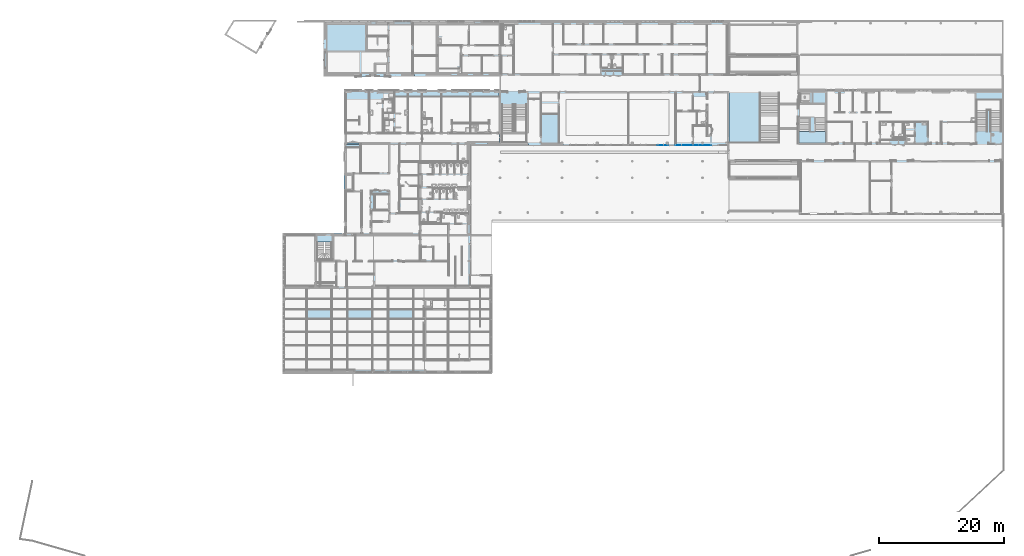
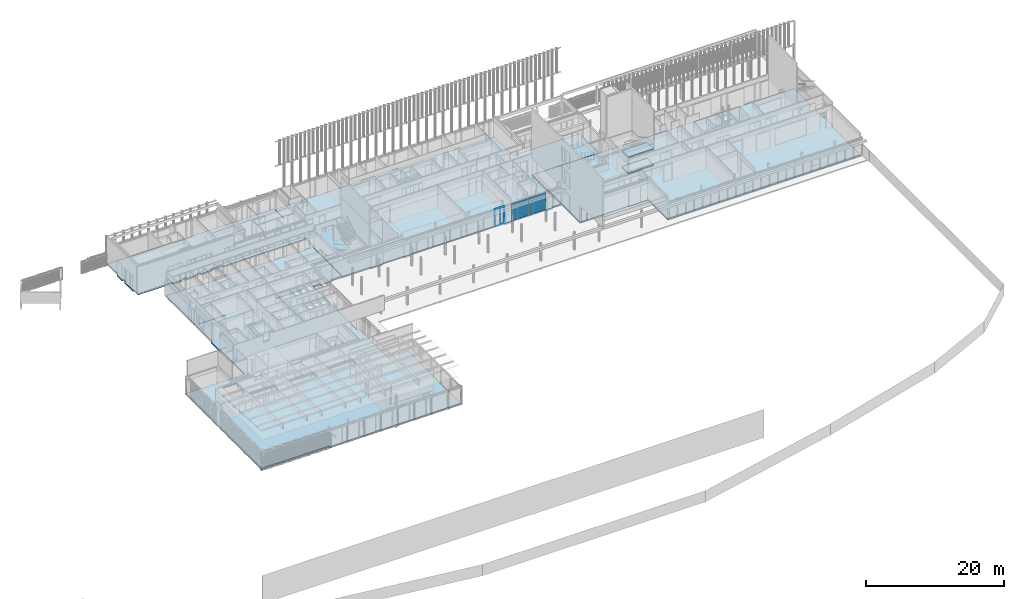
# One storey, part 181 of 240: 3 plates, 3 slabs, 3 elements without a shape of their own.
"""IFC2X3 building model written with IfcOpenShell, lengths in centimetres."""

from ifc_helpers import new_model, entity, si_unit, converted_unit, derived_unit, direction, frame, origin, place, context, subcontext, project, spatial, faceted_brep, source, transform, mapped, material, material_list, layer, layer_set, type_object, type_shapes, element, aggregate, save


model = new_model("IFC2X3")

# Units and contexts
model_context = context("Model", 3, precision=0.001, world=origin(), true_north=direction((6.12303176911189e-17, 1.0)))
body_context = subcontext(model_context, "Body", "Model", "MODEL_VIEW")
ifc_project = project(units=[si_unit("LENGTHUNIT", "METRE", prefix="CENTI"), si_unit("AREAUNIT", "SQUARE_METRE"), si_unit("VOLUMEUNIT", "CUBIC_METRE"), converted_unit("PLANEANGLEUNIT", "DEGREE", entity("IfcRatioMeasure", 0.0174532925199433), si_unit("PLANEANGLEUNIT", "RADIAN"), dimensions=[0, 0, 0, 0, 0, 0, 0]), si_unit("MASSUNIT", "GRAM", prefix="KILO"), derived_unit("MASSDENSITYUNIT", [(si_unit("MASSUNIT", "GRAM", prefix="KILO"), 1), (si_unit("LENGTHUNIT", "METRE"), -3)]), si_unit("TIMEUNIT", "SECOND"), si_unit("FREQUENCYUNIT", "HERTZ"), si_unit("THERMODYNAMICTEMPERATUREUNIT", "DEGREE_CELSIUS"), derived_unit("THERMALTRANSMITTANCEUNIT", [(si_unit("MASSUNIT", "GRAM", prefix="KILO"), 1), (si_unit("THERMODYNAMICTEMPERATUREUNIT", "KELVIN"), -1), (si_unit("TIMEUNIT", "SECOND"), -3)]), derived_unit("VOLUMETRICFLOWRATEUNIT", [(si_unit("LENGTHUNIT", "METRE"), 3), (si_unit("TIMEUNIT", "SECOND"), -1)]), si_unit("ELECTRICCURRENTUNIT", "AMPERE"), si_unit("ELECTRICVOLTAGEUNIT", "VOLT"), si_unit("POWERUNIT", "WATT"), si_unit("FORCEUNIT", "NEWTON", prefix="KILO"), si_unit("ILLUMINANCEUNIT", "LUX"), si_unit("LUMINOUSFLUXUNIT", "LUMEN"), si_unit("LUMINOUSINTENSITYUNIT", "CANDELA"), derived_unit("USERDEFINED", [(si_unit("MASSUNIT", "GRAM", prefix="KILO"), -1), (si_unit("LENGTHUNIT", "METRE"), -2), (si_unit("TIMEUNIT", "SECOND"), 3), (si_unit("LUMINOUSFLUXUNIT", "LUMEN"), 1)]), derived_unit("LINEARVELOCITYUNIT", [(si_unit("LENGTHUNIT", "METRE"), 1), (si_unit("TIMEUNIT", "SECOND"), -1)]), si_unit("PRESSUREUNIT", "PASCAL"), derived_unit("USERDEFINED", [(si_unit("LENGTHUNIT", "METRE"), -2), (si_unit("MASSUNIT", "GRAM", prefix="KILO"), 1), (si_unit("TIMEUNIT", "SECOND"), -2)])], contexts=[model_context])

# Site, building, storey
site_placement = place(None, frame((-2781.94577612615, 7442.24238424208, 0.0)))
site = spatial("IfcSite", under=ifc_project, at=site_placement, Name="Default", CompositionType="ELEMENT")
building_placement = place(site_placement, origin())
building = spatial("IfcBuilding", under=site, at=building_placement, CompositionType="ELEMENT")
storey_placement = place(building_placement, origin())
storey = spatial("IfcBuildingStorey", under=building, at=storey_placement, Name="N00 - COO", CompositionType="ELEMENT", Elevation=0.0)

# Slab
ifc_material_1 = material(Name="Béton, coulé sur place")
ifc_material_2 = material(Name="01 - Maçonnerie")
ifc_material_list = material_list([ifc_material_1, ifc_material_2])
slab_type = type_object("IfcSlabType", Name="Sol:02 - dalle béton 20cm + chape 6cm", PredefinedType="FLOOR")
slab_1_placement = place(storey_placement, origin())
element("IfcSlab", 1, at=slab_1_placement, inside=storey, type_object=slab_type, material=ifc_material_list, Name="Sol:02 - dalle béton 20cm + chape 6cm", ObjectType="Sol:02 - dalle béton 20cm + chape 6cm", PredefinedType="FLOOR", context=body_context, shape_type="Brep", body=[
    faceted_brep([(-4769.27431279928, 24.0, -26.0), (-4769.27431279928, 10.0, -26.0), (-4769.27431279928, -15.1565673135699, -26.0), (-4769.27431279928, -508.548500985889, -26.0), (-4767.99987760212, -508.548500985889, -26.0), (-4749.99987760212, -508.548500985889, -26.0), (-3667.99987968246, -508.548500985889, -26.0), (-3667.99987968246, -527.548500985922, -26.0), (-3667.99987968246, -832.048500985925, -26.0), (-3667.99987968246, -1084.68999990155, -26.0), (-4791.99987760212, -1084.68999990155, -26.0), (-4791.99987760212, -1911.38903364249, -26.0), (-4791.99987760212, -1930.97903364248, -26.0), (-4934.49987757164, -1930.97903364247, -26.0), (-4934.49987757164, -1931.38903364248, -26.0), (-4934.49987757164, -1950.0614976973, -26.0), (-5049.49987760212, -1950.0614976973, -26.0), (-5049.49987760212, -1931.38903364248, -26.0), (-5049.49987760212, -1930.97903364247, -26.0), (-5621.24987760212, -1930.97903364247, -26.0), (-5621.24987760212, -1931.38903364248, -26.0), (-5621.24987760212, -1950.0614976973, -26.0), (-5734.4998776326, -1950.0614976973, -26.0), (-5734.4998776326, -1931.38903364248, -26.0), (-5734.4998776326, -1930.97903364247, -26.0), (-7299.50004163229, -1930.97903364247, -26.0), (-7299.50004163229, -1931.38903364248, -26.0), (-7299.50004163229, -1950.06149769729, -26.0), (-7414.50004166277, -1950.06149769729, -26.0), (-7414.50004166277, -1931.38903364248, -26.0), (-7414.50004166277, -1929.66903364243, -26.0), (-7766.49987760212, -1929.66903364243, -26.0), (-7766.49987760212, -1931.38903364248, -26.0), (-7766.49987760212, -1950.06150190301, -26.0), (-7966.49987760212, -1950.06150190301, -26.0), (-7966.49987760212, -1931.38903364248, -26.0), (-7966.49987760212, -1930.07903364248, -26.0), (-8429.49987766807, -1930.07903364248, -26.0), (-8429.49987766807, -1911.38903364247, -26.0), (-8429.49987766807, -1076.0, -26.0), (-8409.49987766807, -1076.0, -26.0), (-8409.49987766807, -830.048500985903, -26.0), (-8409.49987766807, -816.048500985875, -26.0), (-8429.49987766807, -816.048500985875, -26.0), (-8429.49987766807, -10.0, -26.0), (-8429.49987766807, 10.0, -26.0), (-8429.49987766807, 24.0, -26.0), (-4769.27431279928, 24.0, -6.0), (-4769.27431279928, 24.0, 0.0), (-4769.27431279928, 10.0, 0.0), (-4769.27431279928, -508.548500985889, 0.0), (-4767.99987760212, -508.548500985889, 0.0), (-4767.99987760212, -508.548500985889, -20.0), (-4749.99987760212, -508.548500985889, -20.0), (-3667.99987968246, -508.548500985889, -20.0), (-3667.99987968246, -522.398500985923, -20.0), (-3667.99987968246, -522.398500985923, -6.0), (-3667.99987968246, -522.398500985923, 0.0), (-3667.99987968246, -1084.68999990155, 0.0), (-4791.99987760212, -1084.68999990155, 0.0), (-7966.49987760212, -1930.07903364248, 0.0), (-8429.49987766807, -1930.07903364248, 0.0), (-8429.49987766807, 24.0, -6.0), (-8429.49987766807, 24.0, 0.0), (-4791.99987760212, -1911.38903364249, 0.0), (-4791.99987760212, -1930.97903364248, 0.0), (-8429.49987766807, -1911.38903364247, 0.0), (-8429.49987766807, -1910.07903364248, 0.0), (-8429.49987766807, -1908.57903364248, 0.0), (-8429.49987766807, -1761.57903364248, 0.0), (-8429.49987766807, -1090.0, 0.0), (-8429.49987766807, -1076.0, 0.0), (-8409.49987766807, -1076.0, 0.0), (-8409.49987766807, -830.048500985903, 0.0), (-8409.49987766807, -816.048500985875, 0.0), (-8429.49987766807, -816.048500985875, 0.0), (-8429.49987766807, -810.048500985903, 0.0), (-8429.49987766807, -520.0, 0.0), (-8429.49987766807, -350.0, 0.0), (-8429.49987766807, -15.0, 0.0), (-4767.99987760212, -522.398500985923, -20.0), (-4767.99987760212, -522.398500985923, 0.0), (-4934.49987757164, -1930.97903364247, 0.0), (-4934.49987757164, -1931.38903364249, 0.0), (-4934.49987757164, -1950.0614976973, 0.0), (-5049.49987760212, -1950.0614976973, 0.0), (-5049.49987760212, -1931.38903364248, 0.0), (-5049.49987760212, -1930.97903364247, 0.0), (-5621.24987760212, -1930.97903364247, 0.0), (-5621.24987760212, -1931.38903364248, 0.0), (-5621.24987760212, -1950.0614976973, 0.0), (-5734.4998776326, -1950.0614976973, 0.0), (-5734.4998776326, -1931.38903364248, 0.0), (-5734.4998776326, -1930.97903364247, 0.0), (-7299.50004163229, -1930.97903364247, 0.0), (-7299.50004163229, -1931.38903364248, 0.0), (-7299.50004163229, -1950.06149769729, 0.0), (-7414.50004166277, -1950.06149769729, 0.0), (-7414.50004166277, -1931.38903364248, 0.0), (-7414.50004166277, -1929.66903364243, 0.0), (-7766.49987760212, -1929.66903364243, 0.0), (-7766.49987760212, -1931.38903364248, 0.0), (-7766.49987760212, -1950.06150190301, 0.0), (-7966.49987760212, -1950.06150190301, 0.0), (-7966.49987760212, -1931.38903364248, 0.0)], [[[0, 1, 2, 3, 4, 5, 6, 7, 8, 9, 10, 11, 12, 13, 14, 15, 16, 17, 18, 19, 20, 21, 22, 23, 24, 25, 26, 27, 28, 29, 30, 31, 32, 33, 34, 35, 36, 37, 38, 39, 40, 41, 42, 43, 44, 45, 46]], [[3, 2, 1, 0, 47, 48, 49, 50]], [[6, 5, 4, 3, 50, 51, 52, 53, 54]], [[9, 8, 7, 6, 54, 55, 56, 57, 58]], [[10, 9, 58, 59]], [[37, 36, 60, 61]], [[0, 46, 62, 63, 48, 47]], [[12, 11, 10, 59, 64, 65]], [[39, 38, 37, 61, 66, 67, 68, 69, 70, 71]], [[40, 39, 71, 72]], [[42, 41, 40, 72, 73, 74]], [[43, 42, 74, 75]], [[46, 45, 44, 43, 75, 76, 77, 78, 79, 63, 62]], [[52, 80, 55, 54, 53]], [[80, 81, 57, 56, 55]], [[81, 80, 52, 51]], [[13, 12, 65, 82]], [[15, 14, 13, 82, 83, 84]], [[16, 15, 84, 85]], [[18, 17, 16, 85, 86, 87]], [[19, 18, 87, 88]], [[21, 20, 19, 88, 89, 90]], [[22, 21, 90, 91]], [[24, 23, 22, 91, 92, 93]], [[25, 24, 93, 94]], [[27, 26, 25, 94, 95, 96]], [[28, 27, 96, 97]], [[30, 29, 28, 97, 98, 99]], [[31, 30, 99, 100]], [[33, 32, 31, 100, 101, 102]], [[34, 33, 102, 103]], [[36, 35, 34, 103, 104, 60]], [[50, 49, 48, 63, 79, 78, 77, 76, 75, 74, 73, 72, 71, 70, 69, 68, 67, 66, 61, 60, 104, 103, 102, 101, 100, 99, 98, 97, 96, 95, 94, 93, 92, 91, 90, 89, 88, 87, 86, 85, 84, 83, 82, 65, 64, 59, 58, 57, 81, 51]]]),
    faceted_brep([(-8548.98738089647, -5556.50173441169, 0.0), (-8548.98738089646, -4902.50173441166, 0.0), (-8548.98738089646, -4023.76903364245, 0.0), (-8881.93218005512, -4023.76903364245, 0.0), (-8881.93218005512, -4015.56712621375, 0.0), (-8881.93218005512, -3191.07903364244, 0.0), (-8883.93218005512, -3191.07903364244, 0.0), (-8901.93218005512, -3191.07903364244, 0.0), (-8921.93218005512, -3191.07903364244, 0.0), (-8921.93218005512, -1931.38903364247, 0.0), (-10881.6130476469, -1931.38903364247, 0.0), (-10881.6130476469, -1932.0, 0.0), (-10881.6130476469, -2412.52903364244, 0.0), (-10901.6130476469, -2412.52903364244, 0.0), (-10901.6130476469, -2648.46903364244, 0.0), (-10881.6130476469, -2648.46903364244, 0.0), (-10881.6130476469, -3352.52180651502, 0.0), (-11864.3505746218, -3352.52180651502, 0.0), (-11864.3505746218, -3372.52180651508, 0.0), (-11864.3505746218, -5532.50173441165, 0.0), (-10732.8167461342, -5532.50173441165, 0.0), (-10732.8167461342, -5556.50173441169, 0.0), (-11332.182807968, -3491.10966115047, 0.0), (-11102.182807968, -3491.10966115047, 0.0), (-11102.182807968, -3751.41966115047, 0.0), (-11332.182807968, -3751.41966115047, 0.0), (-8548.98738089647, -5556.50173441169, -26.0), (-8548.98738089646, -4902.50173441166, -26.0), (-11864.3505746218, -5532.50173441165, -26.0), (-10732.8167461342, -5532.50173441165, -26.0), (-11864.3505746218, -3352.52180651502, -26.0), (-11864.3505746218, -4205.50027342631, -26.0), (-11864.3505746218, -4225.50027342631, -26.0), (-10881.6130476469, -3352.52180651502, -26.0), (-10881.6130476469, -3352.52180651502, -6.0), (-10881.6130476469, -2648.46903364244, -26.0), (-10881.6130476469, -2648.46903364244, -6.0), (-8921.93218005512, -3191.07903364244, -26.0), (-8921.93218005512, -2810.07903364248, -26.0), (-8921.93218005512, -2605.07903364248, -26.0), (-8921.93218005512, -1931.38903364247, -26.0), (-8548.98738089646, -4023.76903364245, -26.0), (-8881.93218005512, -4023.76903364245, -26.0), (-10881.6130476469, -1931.38903364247, -26.0), (-10881.6130476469, -1931.38903364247, -6.0), (-11332.182807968, -3491.10966115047, -26.0), (-11102.182807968, -3491.10966115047, -26.0), (-11332.182807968, -3751.41966115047, -26.0), (-11102.182807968, -3751.41966115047, -26.0), (-8548.98738089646, -4026.27903364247, -26.0), (-8881.93218005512, -3191.07903364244, -26.0), (-8883.93218005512, -3191.07903364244, -26.0), (-8901.93218005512, -3191.07903364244, -26.0), (-8881.93218005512, -4006.27903364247, -26.0), (-10901.6130476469, -2648.46903364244, -26.0), (-10901.6130476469, -2648.46903364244, -6.0), (-10901.6130476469, -2412.52903364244, -26.0), (-10901.6130476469, -2412.52903364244, -6.0), (-10881.6130476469, -2412.52903364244, -26.0), (-10881.6130476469, -2412.52903364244, -6.0), (-10732.8167461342, -5556.50173441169, -26.0)], [[[0, 1, 2, 3, 4, 5, 6, 7, 8, 9, 10, 11, 12, 13, 14, 15, 16, 17, 18, 19, 20, 21], [22, 23, 24, 25]], [[26, 27, 1, 0]], [[28, 29, 20, 19]], [[30, 31, 32, 28, 19, 18, 17]], [[33, 30, 17, 16, 34]], [[35, 33, 34, 16, 15, 36]], [[37, 38, 39, 40, 9, 8]], [[41, 42, 3, 2]], [[40, 43, 44, 10, 9]], [[45, 46, 23, 22]], [[47, 45, 22, 25]], [[48, 47, 25, 24]], [[46, 48, 24, 23]], [[27, 49, 41, 2, 1]], [[50, 51, 52, 37, 8, 7, 6, 5]], [[42, 53, 50, 5, 4, 3]], [[54, 35, 36, 15, 14, 55]], [[56, 54, 55, 14, 13, 57]], [[58, 56, 57, 13, 12, 59]], [[43, 58, 59, 12, 11, 10, 44]], [[60, 26, 0, 21]], [[29, 60, 21, 20]], [[27, 26, 60, 29, 28, 32, 31, 30, 33, 35, 54, 56, 58, 43, 40, 39, 38, 37, 52, 51, 50, 53, 42, 41, 49], [46, 45, 47, 48]]]),
    faceted_brep([(-1520.04988284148, -1088.68999990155, -26.0), (-3667.99987968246, -1088.68999990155, -26.0), (-3667.99987968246, -1088.68999990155, 0.0), (-1520.04988284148, -1088.68999990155, 0.0), (-409.999882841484, -1928.84656731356, -26.0), (-409.999882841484, -1910.07903364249, -26.0), (-409.999882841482, -1110.0, -26.0), (-409.999882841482, -1088.68999990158, -26.0), (-409.999882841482, -1088.68999990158, 0.0), (-409.999882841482, -1100.0, 0.0), (-409.999882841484, -1928.84656731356, 0.0), (-409.999882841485, -3016.31349958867, -26.0), (-409.999882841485, -3010.31349958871, -26.0), (-409.999882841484, -2210.15656731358, -26.0), (-409.999882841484, -2190.15656731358, -26.0), (-409.999882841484, -2188.84656731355, -26.0), (-409.999882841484, -2188.84656731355, 0.0), (-409.999882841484, -2190.15656731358, 0.0), (-409.999882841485, -3016.31349958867, 0.0), (-3636.60430890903, -3016.31349958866, -26.0), (-3629.49987968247, -3016.31349958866, -26.0), (-3629.49987968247, -3016.31349958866, 0.0), (-3636.60430890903, -3016.31349958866, 0.0), (-3636.60430890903, -2463.84656731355, -26.0), (-3636.60430890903, -2463.84656731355, 0.0), (-4767.99987760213, -2463.84656731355, -26.0), (-3649.49987968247, -2463.84656731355, -26.0), (-3649.49987968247, -2463.84656731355, 0.0), (-4767.99987760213, -2463.84656731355, 0.0), (-4767.99987760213, -1088.68999990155, -26.0), (-4767.99987760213, -1088.68999990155, 0.0), (-4767.99987760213, -2190.15656731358, -26.0), (-1252.54988284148, -1088.68999990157, -26.0), (-1252.54988284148, -1088.68999990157, 0.0), (-394.999882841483, -1928.84656731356, -26.0), (-394.999882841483, -1928.84656731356, 0.0), (-394.999882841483, -2188.84656731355, -26.0), (-394.999882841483, -2188.84656731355, 0.0)], [[[0, 1, 2, 3]], [[4, 5, 6, 7, 8, 9, 10]], [[11, 12, 13, 14, 15, 16, 17, 18]], [[19, 20, 11, 18, 21, 22]], [[23, 19, 22, 24]], [[25, 26, 23, 24, 27, 28]], [[1, 29, 30, 2]], [[29, 31, 25, 28, 30]], [[32, 0, 3, 33]], [[7, 32, 33, 8]], [[34, 4, 10, 35]], [[36, 34, 35, 37]], [[15, 36, 37, 16]], [[3, 2, 30, 28, 27, 24, 22, 21, 18, 17, 16, 37, 35, 10, 9, 8, 33]], [[1, 0, 32, 7, 6, 5, 4, 34, 36, 15, 14, 13, 12, 11, 20, 19, 23, 26, 25, 31, 29]]]),
    faceted_brep([(-10340.4998776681, -1076.14999990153, -26.0), (-10863.6130476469, -1076.14999990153, -26.0), (-10881.6130476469, -1076.14999990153, -26.0), (-10881.6130476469, -1076.14999990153, 0.0), (-10863.6130476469, -1076.14999990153, 0.0), (-10340.4998776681, -1076.14999990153, 0.0), (-10881.6130476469, -1930.07903364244, -26.0), (-8813.98738089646, -1930.07903364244, -26.0), (-8813.98738089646, -1930.07903364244, 0.0), (-10881.6130476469, -1930.07903364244, 0.0), (-10881.6130476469, -1090.0, -26.0), (-10881.6130476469, -1110.0, -26.0), (-10881.6130476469, -1910.07903364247, -26.0), (-10881.6130476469, -1911.38903364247, -26.0), (-10881.6130476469, -1090.0, 0.0), (-8433.49987766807, -1916.07903364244, -26.0), (-8433.49987766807, -1911.38903364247, -26.0), (-8433.49987766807, -1090.0, -26.0), (-8433.49987766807, -1073.69999990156, -26.0), (-8433.49987766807, -1073.69999990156, 0.0), (-8433.49987766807, -1090.0, 0.0), (-8433.49987766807, -1911.38903364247, 0.0), (-8433.49987766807, -1916.07903364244, 0.0), (-10340.4998776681, -1088.68999990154, -26.0), (-10340.4998776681, -1088.68999990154, 0.0), (-10043.4998776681, -1088.68999990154, -26.0), (-10043.4998776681, -1088.68999990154, 0.0), (-10043.4998776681, -1073.69999990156, -26.0), (-10043.4998776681, -1073.69999990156, 0.0), (-8613.98738089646, -1916.07903364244, -26.0), (-8613.98738089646, -1916.07903364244, 0.0), (-8613.98738089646, -1950.06149769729, -26.0), (-8613.98738089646, -1931.38903364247, -26.0), (-8613.98738089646, -1931.38903364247, 0.0), (-8613.98738089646, -1950.06149769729, 0.0), (-8813.98738089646, -1950.06149769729, -26.0), (-8813.98738089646, -1950.06149769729, 0.0), (-8813.98738089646, -1931.38903364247, -26.0), (-8813.98738089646, -1931.38903364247, 0.0)], [[[0, 1, 2, 3, 4, 5]], [[6, 7, 8, 9]], [[2, 10, 11, 12, 13, 6, 9, 14, 3]], [[15, 16, 17, 18, 19, 20, 21, 22]], [[23, 0, 5, 24]], [[25, 23, 24, 26]], [[27, 25, 26, 28]], [[18, 27, 28, 19]], [[29, 15, 22, 30]], [[31, 32, 29, 30, 33, 34]], [[35, 31, 34, 36]], [[7, 37, 35, 36, 38, 8]], [[5, 4, 3, 14, 9, 8, 38, 36, 34, 33, 30, 22, 21, 20, 19, 28, 26, 24]], [[2, 1, 0, 23, 25, 27, 18, 17, 16, 15, 29, 32, 31, 35, 37, 7, 6, 13, 12, 11, 10]]]),
    faceted_brep([(-9602.49987766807, -844.04850098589, -26.0), (-8433.49987766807, -844.04850098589, -26.0), (-8433.49987766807, -844.04850098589, 0.0), (-9602.49987766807, -844.04850098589, 0.0), (-11210.6616968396, -408.71425049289, -26.0), (-11210.6616968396, -470.189999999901, -26.0), (-11210.6616968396, -470.189999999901, 0.0), (-11210.6616968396, -408.71425049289, 0.0), (-10103.7498776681, 43.8500000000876, -26.0), (-11210.6616968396, 43.8500000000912, -26.0), (-11210.6616968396, 43.8500000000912, 0.0), (-10103.7498776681, 43.8500000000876, 0.0), (-8433.49987766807, -830.048500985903, -26.0), (-8433.49987766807, -810.048500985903, -26.0), (-8433.49987766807, -10.0, -26.0), (-8433.49987766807, 10.0, -26.0), (-8433.49987766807, 28.0, -26.0), (-8433.49987766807, 43.8500000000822, -26.0), (-8433.49987766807, 43.8500000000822, 0.0), (-8433.49987766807, -810.048500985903, 0.0), (-8433.49987766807, -830.048500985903, 0.0), (-9988.66169683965, -850.048500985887, -26.0), (-9988.66169683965, -830.048500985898, -26.0), (-9988.66169683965, -816.048500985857, -26.0), (-9988.66169683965, -816.048500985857, 0.0), (-9988.66169683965, -830.048500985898, 0.0), (-9988.66169683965, -850.048500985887, 0.0), (-10168.6616968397, -850.048500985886, -26.0), (-10168.6616968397, -850.048500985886, 0.0), (-10168.6616968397, -828.73850098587, -26.0), (-10168.6616968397, -830.048500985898, -26.0), (-10168.6616968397, -830.048500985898, 0.0), (-10168.6616968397, -828.73850098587, 0.0), (-10250.5807872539, -828.73850098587, -26.0), (-10250.5807872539, -828.73850098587, 0.0), (-10103.7498776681, 26.2000000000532, -26.0), (-10103.7498776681, 28.0, -26.0), (-10103.7498776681, 26.2000000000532, 0.0), (-10103.7498776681, 26.2000000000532, -6.0), (-9830.24987766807, 26.2000000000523, -26.0), (-9830.24987766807, 26.2000000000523, 0.0), (-9830.24987766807, 26.2000000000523, -6.0), (-9830.24987766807, 43.8500000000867, -26.0), (-9830.24987766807, 28.0, -26.0), (-9830.24987766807, 43.8500000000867, 0.0), (-11230.6616968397, -408.71425049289, -26.0), (-11230.6616968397, -408.71425049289, 0.0), (-11230.6616968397, -257.71425049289, -26.0), (-11230.6616968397, -257.71425049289, 0.0), (-11210.6616968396, -257.71425049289, -26.0), (-11210.6616968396, -257.71425049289, 0.0), (-11210.6616968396, 28.0, -26.0), (-11210.6616968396, 10.0, -26.0), (-11210.6616968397, -713.1899999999, -26.0), (-11210.6616968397, -828.73850098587, -26.0), (-11210.6616968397, -828.73850098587, 0.0), (-11210.6616968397, -713.1899999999, 0.0), (-11230.6616968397, -713.1899999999, -26.0), (-11230.6616968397, -713.1899999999, 0.0), (-11230.6616968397, -470.189999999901, -26.0), (-11230.6616968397, -470.189999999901, 0.0), (-9602.49987766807, -848.848500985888, -26.0), (-9602.49987766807, -848.848500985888, 0.0), (-9782.49987766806, -848.848500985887, -26.0), (-9782.49987766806, -848.848500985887, 0.0), (-9782.49987766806, -816.048500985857, -26.0), (-9782.49987766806, -830.048500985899, -26.0), (-9782.49987766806, -830.048500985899, 0.0), (-9782.49987766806, -816.048500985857, 0.0), (-10483.4998776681, -850.048500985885, -26.0), (-10483.4998776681, -830.048500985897, -26.0), (-10483.4998776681, -828.73850098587, -26.0), (-10483.4998776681, -828.73850098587, 0.0), (-10483.4998776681, -830.048500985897, 0.0), (-10483.4998776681, -850.048500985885, 0.0), (-10634.4998776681, -850.048500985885, -26.0), (-10634.4998776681, -850.048500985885, 0.0), (-10634.4998776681, -828.73850098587, -26.0), (-10634.4998776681, -830.048500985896, -26.0), (-10634.4998776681, -830.048500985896, 0.0), (-10634.4998776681, -828.73850098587, 0.0), (-11190.6616968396, -828.73850098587, -26.0), (-11190.6616968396, -828.73850098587, 0.0), (-10250.5807872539, -850.048500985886, -26.0), (-10250.5807872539, -830.048500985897, -26.0), (-10250.5807872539, -830.048500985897, 0.0), (-10250.5807872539, -850.048500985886, 0.0), (-10401.5807872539, -850.048500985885, -26.0), (-10401.5807872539, -850.048500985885, 0.0), (-10401.5807872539, -828.73850098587, -26.0), (-10401.5807872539, -830.048500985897, -26.0), (-10401.5807872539, -830.048500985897, 0.0), (-10401.5807872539, -828.73850098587, 0.0)], [[[0, 1, 2, 3]], [[4, 5, 6, 7]], [[8, 9, 10, 11]], [[1, 12, 13, 14, 15, 16, 17, 18, 19, 20, 2]], [[21, 22, 23, 24, 25, 26]], [[27, 21, 26, 28]], [[29, 30, 27, 28, 31, 32]], [[33, 29, 32, 34]], [[35, 36, 8, 11, 37, 38]], [[39, 35, 38, 37, 40, 41]], [[42, 43, 39, 41, 40, 44]], [[17, 42, 44, 18]], [[45, 4, 7, 46]], [[47, 45, 46, 48]], [[49, 47, 48, 50]], [[9, 51, 52, 49, 50, 10]], [[53, 54, 55, 56]], [[57, 53, 56, 58]], [[59, 57, 58, 60]], [[5, 59, 60, 6]], [[61, 0, 3, 62]], [[63, 61, 62, 64]], [[65, 66, 63, 64, 67, 68]], [[23, 65, 68, 24]], [[69, 70, 71, 72, 73, 74]], [[75, 69, 74, 76]], [[77, 78, 75, 76, 79, 80]], [[54, 81, 77, 80, 82, 55]], [[83, 84, 33, 34, 85, 86]], [[87, 83, 86, 88]], [[89, 90, 87, 88, 91, 92]], [[71, 89, 92, 72]], [[3, 2, 20, 19, 18, 44, 40, 37, 11, 10, 50, 48, 46, 7, 6, 60, 58, 56, 55, 82, 80, 79, 76, 74, 73, 72, 92, 91, 88, 86, 85, 34, 32, 31, 28, 26, 25, 24, 68, 67, 64, 62]], [[1, 0, 61, 63, 66, 65, 23, 22, 21, 27, 30, 29, 33, 84, 83, 87, 90, 89, 71, 70, 69, 75, 78, 77, 81, 54, 53, 57, 59, 5, 4, 45, 47, 49, 52, 51, 9, 8, 36, 35, 39, 43, 42, 17, 16, 15, 14, 13, 12]]]),
])

# Curtain wall, plate
curtain_wall_type = type_object("IfcCurtainWallType", Name="Mur-rideau:07 - mur rideau trame 280 cm", PredefinedType="NOTDEFINED")
curtain_wall_1_placement = place(building_placement, origin())
curtain_wall_1 = element("IfcCurtainWall", 2, at=curtain_wall_1_placement, inside=storey, type_object=curtain_wall_type, Name="Mur-rideau:07 - mur rideau trame 280 cm", ObjectType="Mur-rideau:07 - mur rideau trame 280 cm")
ifc_material_3 = material(Name="Verre")
ifc_layer = layer(ifc_material_3, 4.0)
ifc_layer_set = layer_set([ifc_layer], Name="Panneau système:Vitré")
plate_type_1 = type_object("IfcPlateType", Name="Vitré", PredefinedType="CURTAIN_PANEL", material=ifc_layer_set)
shared_shape_1 = source(origin(), body_context, "Body", "Brep", [
    faceted_brep([(-79.1374999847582, -2.0, 1.73749999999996), (80.8749999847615, -2.0, 1.73749999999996), (80.8749999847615, -2.0, 304.5), (-79.137499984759, -2.0, 304.5), (10.8625000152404, -2.0, 0.0), (-80.8749999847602, -2.0, 0.0), (-80.8749999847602, -2.0, 307.7375), (10.8625000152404, -2.0, 307.7375), (-79.1374999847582, 2.0, 1.73749999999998), (-79.1374999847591, 2.0, 304.5), (80.8749999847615, 2.0, 304.5), (80.8749999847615, 2.0, 1.73749999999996), (10.8625000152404, 2.0, 0.0), (10.8625000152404, 2.0, 307.7375), (-80.8749999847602, 2.0, 307.7375), (-80.8749999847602, 2.0, 0.0)], [[[0, 1, 2, 3], [4, 5, 6, 7]], [[8, 9, 10, 11], [12, 13, 14, 15]], [[1, 0, 8, 11]], [[2, 1, 11, 10]], [[3, 2, 10, 9]], [[0, 3, 9, 8]], [[5, 4, 12, 15]], [[6, 5, 15, 14]], [[7, 6, 14, 13]], [[4, 7, 13, 12]]]),
])
type_shapes(plate_type_1, [shared_shape_1])
plate_1_placement = place(curtain_wall_1_placement, frame((-5819.49362761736, -1946.27903364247, 2.38125000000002)))
plate_1 = element("IfcPlate", 3, at=plate_1_placement, type_object=plate_type_1, material=ifc_material_3, Name="Panneau système:Vitré", ObjectType="Panneau système:Vitré", context=body_context, shape_type="MappedRepresentation", body=[
    mapped(shared_shape_1, transform((0.0, 0.0, 0.0), scale=1.0)),
])
aggregate(curtain_wall_1, [plate_1])

# Curtain wall, plates
curtain_wall_2_placement = place(building_placement, origin())
curtain_wall_2 = element("IfcCurtainWall", 4, at=curtain_wall_2_placement, inside=storey, type_object=curtain_wall_type, Name="Mur-rideau:07 - mur rideau trame 280 cm", ObjectType="Mur-rideau:07 - mur rideau trame 280 cm")
plate_type_2 = type_object("IfcPlateType", Name="Vitré", PredefinedType="CURTAIN_PANEL", material=ifc_layer_set)
shared_shape_2 = source(origin(), body_context, "Body", "Brep", [
    faceted_brep([(-46.6375000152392, -2.0, 0.0), (-138.37500001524, -2.0, 0.0), (-138.37500001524, -2.0, 307.7375), (-46.6375000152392, -2.0, 307.7375), (-46.6375000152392, 2.0, 0.0), (-46.6375000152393, 2.0, 307.7375), (-138.37500001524, 2.0, 307.7375), (-138.37500001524, 2.0, 0.0), (-136.63750001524, 2.0, 1.73749999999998), (-136.63750001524, 2.0, 304.5), (138.37500001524, 2.0, 304.5), (138.37500001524, 2.0, 1.73749999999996), (138.37500001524, -2.0, 1.73749999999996), (-136.63750001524, -2.0, 1.73749999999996), (138.37500001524, -2.0, 304.5), (-136.63750001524, -2.0, 304.5)], [[[0, 1, 2, 3]], [[4, 5, 6, 7], [8, 9, 10, 11]], [[1, 0, 4, 7]], [[2, 1, 7, 6]], [[3, 2, 6, 5]], [[0, 3, 5, 4]], [[12, 13, 8, 11]], [[14, 12, 11, 10]], [[15, 14, 10, 9]], [[13, 15, 9, 8]], [[13, 12, 14, 15]]], outer=[[True], [False, True], [True], [True], [True], [True], [True], [True], [True], [True], [True]]),
])
type_shapes(plate_type_2, [shared_shape_2])
plate_2_placement = place(curtain_wall_2_placement, frame((-5478.74362758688, -1946.27903364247, 2.38125000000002)))
plate_2 = element("IfcPlate", 5, at=plate_2_placement, type_object=plate_type_2, material=ifc_material_3, Name="Panneau système:Vitré", ObjectType="Panneau système:Vitré", context=body_context, shape_type="MappedRepresentation", body=[
    mapped(shared_shape_2, transform((0.0, 0.0, 0.0), scale=1.0)),
])
plate_type_3 = type_object("IfcPlateType", Name="Vitré", PredefinedType="CURTAIN_PANEL", material=ifc_layer_set)
shared_shape_3 = source(origin(), body_context, "Body", "Brep", [
    faceted_brep([(-51.6374999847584, -2.0, 0.0), (-143.374999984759, -2.0, 0.0), (-143.374999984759, -2.0, 307.7375), (-51.6374999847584, -2.0, 307.7375), (-51.6374999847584, 2.0, 0.0), (-51.6374999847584, 2.0, 307.7375), (-143.374999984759, 2.0, 307.7375), (-143.374999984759, 2.0, 0.0), (-141.637499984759, 2.0, 1.73749999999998), (-141.637499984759, 2.0, 304.5), (143.374999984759, 2.0, 304.5), (143.374999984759, 2.0, 1.73749999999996), (143.374999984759, -2.0, 1.73749999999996), (-141.637499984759, -2.0, 1.73749999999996), (143.374999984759, -2.0, 304.5), (-141.637499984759, -2.0, 304.5)], [[[0, 1, 2, 3]], [[4, 5, 6, 7], [8, 9, 10, 11]], [[1, 0, 4, 7]], [[2, 1, 7, 6]], [[3, 2, 6, 5]], [[0, 3, 5, 4]], [[12, 13, 8, 11]], [[14, 12, 11, 10]], [[15, 14, 10, 9]], [[13, 15, 9, 8]], [[13, 12, 14, 15]]], outer=[[True], [False, True], [True], [True], [True], [True], [True], [True], [True], [True], [True]]),
])
type_shapes(plate_type_3, [shared_shape_3])
plate_3_placement = place(curtain_wall_2_placement, frame((-5196.99362758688, -1946.27903364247, 2.38125000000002)))
plate_3 = element("IfcPlate", 6, at=plate_3_placement, type_object=plate_type_3, material=ifc_material_3, Name="Panneau système:Vitré", ObjectType="Panneau système:Vitré", context=body_context, shape_type="MappedRepresentation", body=[
    mapped(shared_shape_3, transform((0.0, 0.0, 0.0), scale=1.0)),
])
aggregate(curtain_wall_2, [plate_2, plate_3])

# Stair, slabs
stair_placement = place(building_placement, origin())
stair = element("IfcStair", 7, at=stair_placement, inside=storey, Name="Escalier coulé sur place:Escalier", ObjectType="Escalier coulé sur place:Monobloc", ShapeType="NOTDEFINED")
ifc_material_4 = material(Name="Maçonnerie - Béton")
slab_2_placement = place(stair_placement, frame((-3647.99987968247, -1910.07903364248, 0.0)))
slab_2 = element("IfcSlab", 8, at=slab_2_placement, material=ifc_material_4, Name="Escalier coulé sur place:Escalier:1870163 Landing 1", ObjectType="Palier monobloc:Epaisseur 150 mm", PredefinedType="LANDING", context=body_context, shape_type="Brep", body=[
    faceted_brep([(418.699996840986, 184.0, 140.666666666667), (238.699996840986, 184.0, 140.666666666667), (180.0, 184.0, 140.666666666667), (0.0, 184.0, 140.666666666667), (0.0, 164.583999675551, 140.666666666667), (0.0, 0.0, 140.666666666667), (418.699996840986, 0.0, 140.666666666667), (418.699996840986, 175.416000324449, 140.666666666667), (418.699996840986, 184.0, 125.037037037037), (418.699996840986, 184.0, 115.875068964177), (238.699996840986, 184.0, 115.875068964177), (238.699996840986, 184.0, 120.666666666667), (180.0, 184.0, 120.666666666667), (180.0, 184.0, 131.504698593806), (0.0, 184.0, 131.504698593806), (0.0, 164.583999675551, 120.666666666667), (0.0, 0.0, 120.666666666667), (418.699996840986, 0.0, 120.666666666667), (418.699996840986, 175.416000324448, 120.666666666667), (180.0, 164.583999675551, 120.666666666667), (238.699996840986, 175.416000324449, 120.666666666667)], [[[0, 1, 2, 3, 4, 5, 6, 7]], [[1, 0, 8, 9, 10, 11]], [[2, 1, 11, 12, 13]], [[3, 14, 15, 16, 5, 4]], [[6, 5, 16, 17]], [[9, 8, 0, 7, 6, 17, 18]], [[19, 12, 11, 20, 18, 17, 16, 15]], [[18, 20, 10, 9]], [[20, 11, 10]], [[19, 15, 14, 13]], [[3, 2, 13, 14]], [[12, 19, 13]]]),
])
slab_3_placement = place(stair_placement, frame((-3647.99987968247, -1910.07903364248, 0.0)))
slab_3 = element("IfcSlab", 9, at=slab_3_placement, material=ifc_material_4, Name="Escalier coulé sur place:Escalier:1870163 Landing 3", ObjectType="Palier monobloc:Epaisseur 150 mm", PredefinedType="LANDING", context=body_context, shape_type="Brep", body=[
    faceted_brep([(418.699996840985, 184.0, 422.0), (238.699996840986, 184.0, 422.0), (0.0, 184.0, 422.0), (0.0, 0.0, 422.0), (418.699996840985, 0.0, 422.0), (418.699996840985, 175.41600032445, 422.0), (0.0, 184.0, 402.0), (0.0, 0.0, 402.0), (418.699996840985, 0.0, 402.0), (418.699996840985, 184.0, 397.20840229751), (418.699996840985, 184.0, 406.37037037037), (418.699996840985, 175.416000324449, 402.0), (238.699996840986, 175.41600032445, 402.0), (238.699996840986, 184.0, 402.0), (238.699996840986, 184.0, 397.20840229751)], [[[0, 1, 2, 3, 4, 5]], [[3, 2, 6, 7]], [[4, 3, 7, 8]], [[9, 10, 0, 5, 4, 8, 11]], [[12, 11, 8, 7, 6, 13]], [[1, 0, 10, 9, 14, 13]], [[2, 1, 13, 6]], [[11, 12, 14, 9]], [[12, 13, 14]]]),
])
aggregate(stair, [slab_2, slab_3])

save(model, "model.ifc")
